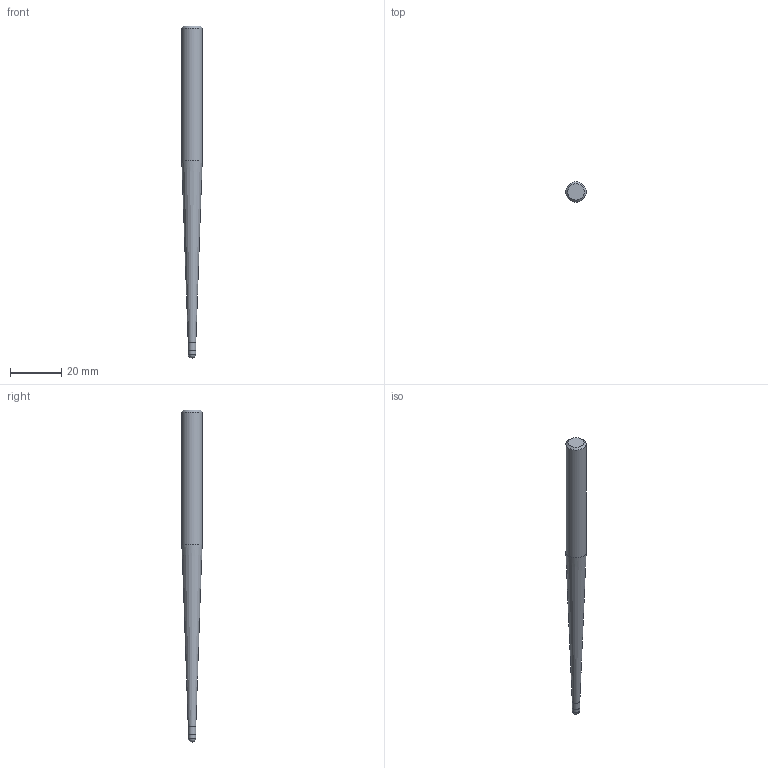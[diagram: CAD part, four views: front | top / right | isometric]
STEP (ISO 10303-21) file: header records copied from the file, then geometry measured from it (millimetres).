
FILE_DESCRIPTION((''),'2;1');
FILE_NAME('C:\Users\nsx150\AppData\Local\Temp\Mastercam 2021\SNAKH10GOD\TEMP.step','2021-10-21T13:33:28',(''),(''),'STEP Write','Mastercam 2021 ... CNC Software, Inc.','');
FILE_SCHEMA(('AUTOMOTIVE_DESIGN'));
Length unit declared in the file: millimetre
Products named in the file (1): None
Bounding box: 8 x 8 x 130 mm (x, y, z)
Volume: 4480.5 mm3; surface area: 2661.5 mm2
Topology: 2 solids, 2 shells, 9 faces, 14 edges, 8 vertices
Faces by surface type: plane 3, cylinder 3, cone 2, sphere 1
Full cylindrical faces by diameter (mm): 2.98 x1, 3 x1, 8 x1
Entity records: 211 total; most frequent: DIRECTION 36, CARTESIAN_POINT 25, AXIS2_PLACEMENT_3D 18, ORIENTED_EDGE 14, EDGE_LOOP 14, STYLED_ITEM 12, ADVANCED_FACE 9, FACE_BOUND 8
